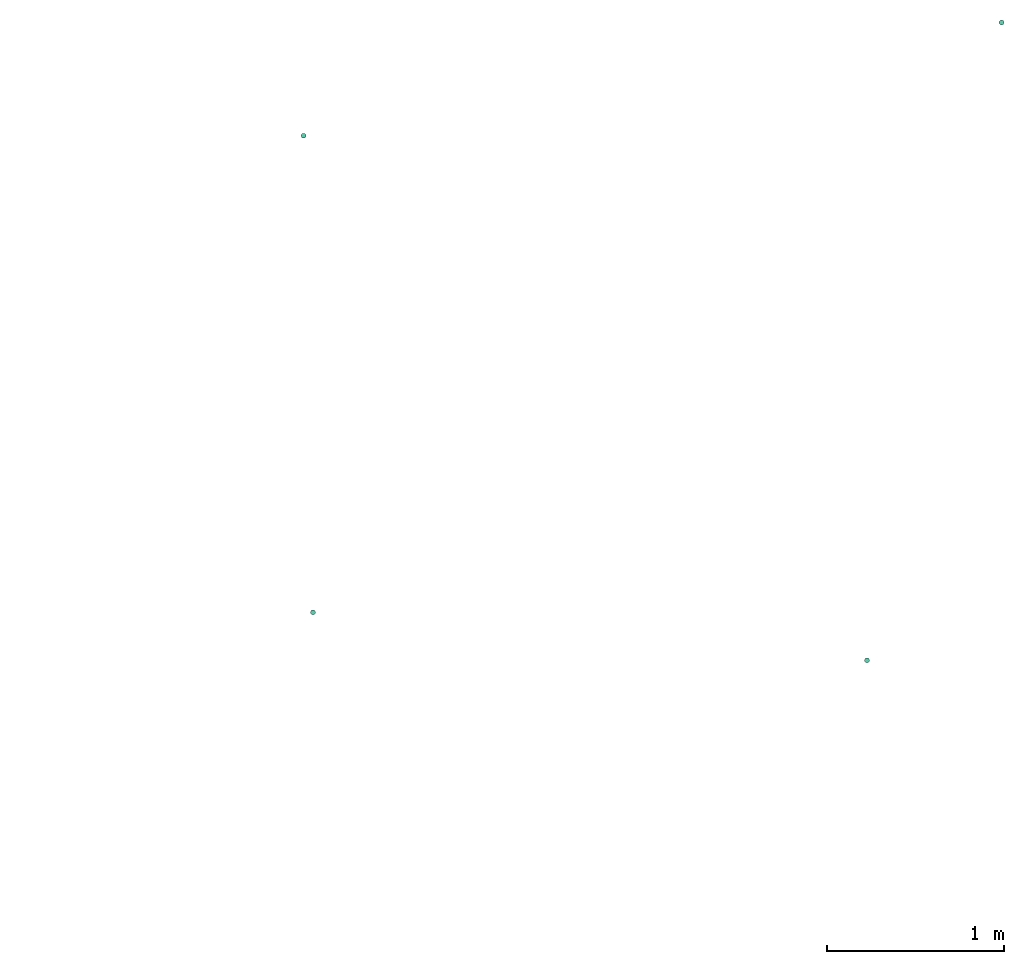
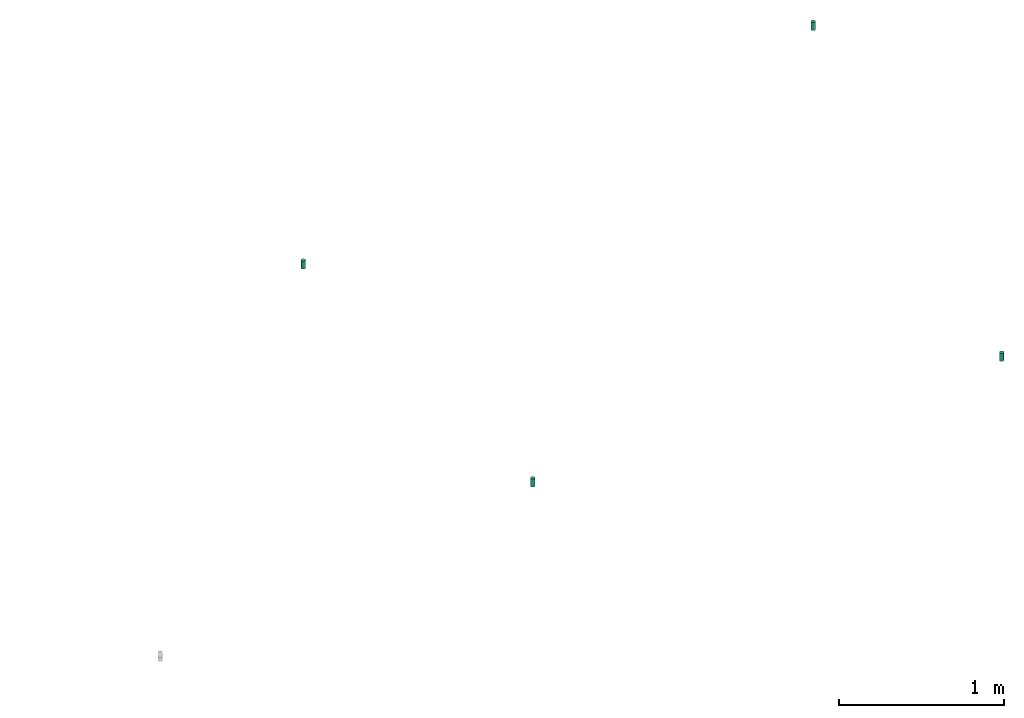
# One storey, part 2 of 2: 4 flow terminals.
"""IFC2X3 building model written with IfcOpenShell, lengths in millimetres."""

from ifc_helpers import new_model, entity, si_unit, converted_unit, derived_unit, direction, frame, frame_2d, origin, origin_with_axes, place, context, subcontext, project, spatial, circle, extrude, source, transform, mapped, material, type_object, element, save


model = new_model("IFC2X3")

# Units and contexts
model_context = context("Model", 3, precision=0.01, world=origin(), true_north=direction((6.12323399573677e-17, 1.0)))
plan_context = context("Plan", 3, precision=1e-05, world=origin_with_axes())
body_context = subcontext(model_context, "Body", "Model", "MODEL_VIEW")
ifc_project = project(units=[converted_unit("PLANEANGLEUNIT", "DEGREE", entity("IfcPositiveLengthMeasure", 0.0174532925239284), si_unit("PLANEANGLEUNIT", "RADIAN"), dimensions=[0, 0, 0, 0, 0, 0, 0]), si_unit("AREAUNIT", "SQUARE_METRE"), si_unit("LENGTHUNIT", "METRE", prefix="MILLI"), si_unit("MASSUNIT", "GRAM", prefix="KILO"), si_unit("POWERUNIT", "WATT"), si_unit("PRESSUREUNIT", "PASCAL", prefix="KILO"), si_unit("FORCEUNIT", "NEWTON", prefix="KILO"), si_unit("ELECTRICVOLTAGEUNIT", "VOLT"), si_unit("ELECTRICCURRENTUNIT", "AMPERE"), si_unit("THERMODYNAMICTEMPERATUREUNIT", "DEGREE_CELSIUS"), si_unit("TIMEUNIT", "SECOND"), si_unit("VOLUMEUNIT", "CUBIC_METRE"), derived_unit("LINEARVELOCITYUNIT", [(si_unit("LENGTHUNIT", "METRE"), 1), (si_unit("TIMEUNIT", "SECOND"), -1)]), derived_unit("VOLUMETRICFLOWRATEUNIT", [(si_unit("VOLUMEUNIT", "CUBIC_METRE"), 1), (si_unit("TIMEUNIT", "SECOND"), -1)]), derived_unit("THERMALTRANSMITTANCEUNIT", [(si_unit("POWERUNIT", "WATT"), 1), (si_unit("THERMODYNAMICTEMPERATUREUNIT", "KELVIN"), -1), (si_unit("AREAUNIT", "SQUARE_METRE"), -1)]), derived_unit("SOUNDPRESSUREUNIT", [(si_unit("PRESSUREUNIT", "PASCAL"), 1)])], contexts=[model_context, plan_context])

# Site, building, storey
site_placement = place(None, frame((-0.00071070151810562, 0.00438415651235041, 0.0), z_axis=(0.0, 0.0, 1.0), x_axis=(-0.160236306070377, 0.987078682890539, 0.0)))
site = spatial("IfcSite", under=ifc_project, at=site_placement, Name="Default", CompositionType="ELEMENT")
building_placement = place(site_placement, origin_with_axes())
building = spatial("IfcBuilding", under=site, at=building_placement, CompositionType="ELEMENT")
storey_placement = place(building_placement, frame((0.0, 0.0, 48160.0), z_axis=(0.0, 0.0, 1.0), x_axis=(1.0, 0.0, 0.0)))
storey = spatial("IfcBuildingStorey", under=building, at=storey_placement, Name="Nivå C", CompositionType="ELEMENT", Elevation=48160.0)

# Flow terminals
ifc_material = material(Name="<Unnamed>")
fire_suppression_terminal_type_1 = type_object("IfcFireSuppressionTerminalType", Name="UZ002T:Dyse/Spreder - UZ002T", PredefinedType="NOTDEFINED", material=ifc_material)
shared_shape = source(origin(), body_context, "Body", "SweptSolid", [
    extrude(circle(Radius=14.0, at=frame_2d((0.0, -2.26176240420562e-14), x_axis=(1.0, 0.0))), origin(), (0.0, 0.0, 1.0), 58.9999999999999),
])
flow_terminal_placement = place(storey_placement, frame((769552.619644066, -598027.480498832, 2085.0), z_axis=(0.0, 0.0, 1.0), x_axis=(0.0, -1.0, 0.0)))
element("IfcFlowTerminal", 1, at=flow_terminal_placement, inside=storey, type_object=fire_suppression_terminal_type_1, material=ifc_material, Name="UZ002T:Dyse/Spreder - UZ002T", ObjectType="UZ002T:Dyse/Spreder - UZ002T", context=body_context, shape_type="MappedRepresentation", body=[
    mapped(shared_shape, transform((0.0, 0.0, 0.0), scale=1.0)),
])
fire_suppression_terminal_type_2 = type_object("IfcFireSuppressionTerminalType", Name="UZ002T:Dyse/Spreder - UZ002T", PredefinedType="NOTDEFINED", material=ifc_material)
for number, where, z_axis, x_axis in (
    (2, (768782.619644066, -601077.954215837, 2085.0), (0.0, 0.0, 1.0), (0.0, 1.0, 0.0)),
    (3, (772222.619644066, -602407.2067675, 2085.0), (0.0, 0.0, 1.0), (0.0, -1.0, 0.0)),
    (4, (772222.619644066, -598407.2067675, 2085.0), (0.0, 0.0, 1.0), (0.0, -1.0, 0.0)),
):
    element("IfcFlowTerminal", number, at=place(storey_placement, frame(where, z_axis=z_axis, x_axis=x_axis)), inside=storey, type_object=fire_suppression_terminal_type_2, material=ifc_material, Name="UZ002T:Dyse/Spreder - UZ002T", ObjectType="UZ002T:Dyse/Spreder - UZ002T", context=body_context, shape_type="MappedRepresentation", body=[
        mapped(shared_shape, transform((0.0, 0.0, 0.0), scale=1.0)),
    ])

save(model, "model.ifc")
